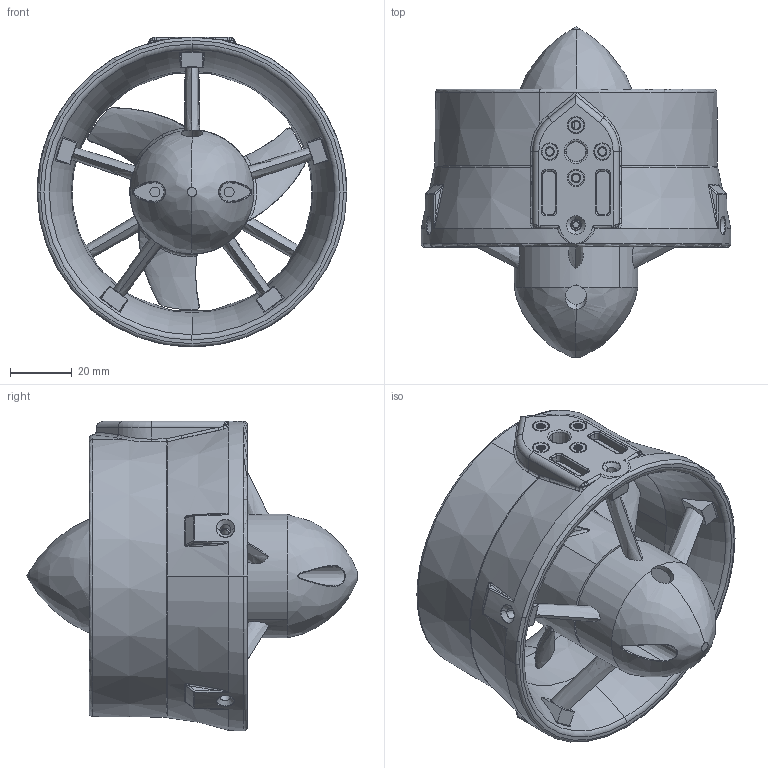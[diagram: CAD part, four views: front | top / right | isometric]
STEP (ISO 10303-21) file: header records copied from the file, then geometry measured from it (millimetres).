
FILE_DESCRIPTION (( 'STEP AP203' ), '1' );
FILE_NAME ('W30推进器 3D工程图.stp', '2022-04-14T06:24:41', ( '微软用户' ), ( '微软中国' ), 'SwSTEP 2.0', 'SolidWorks 2021', '' );
FILE_SCHEMA (( 'CONFIG_CONTROL_DESIGN' ));
Length unit declared in the file: millimetre
Products named in the file (1): W30芢輛ん 3D馱最芞
Bounding box: 100 x 106.75 x 100 mm (x, y, z)
Volume: 151215.3 mm3; surface area: 67198.6 mm2
Topology: 1 solids, 5 shells, 878 faces, 2439 edges, 1567 vertices
Faces by surface type: cylinder 287, bspline 220, plane 204, cone 107, torus 47, sphere 13
Entity records: 66866 total; most frequent: CARTESIAN_POINT 46812, ORIENTED_EDGE 4864, DIRECTION 3205, EDGE_CURVE 2432, VERTEX_POINT 1567, AXIS2_PLACEMENT_3D 1228, B_SPLINE_CURVE_WITH_KNOTS 1065, EDGE_LOOP 947
